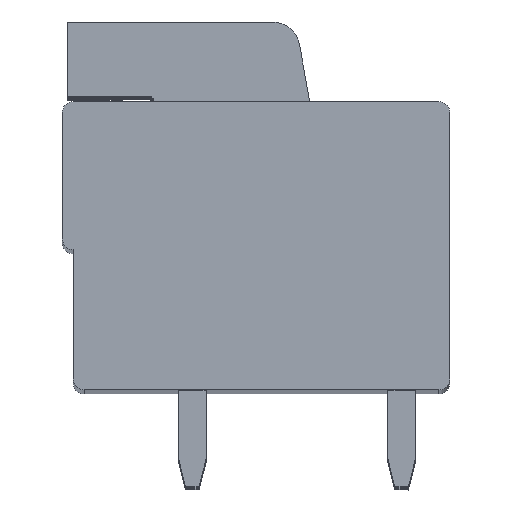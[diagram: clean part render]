
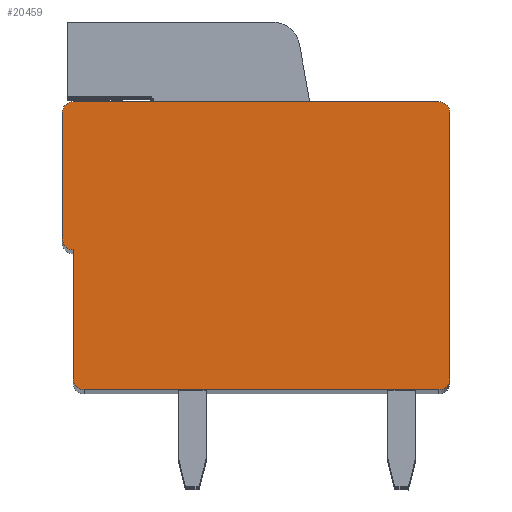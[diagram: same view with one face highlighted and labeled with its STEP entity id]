
A CAD part, top view. The second image highlights one B-rep face of the part: STEP entity #20459.
In plain terms, the highlighted planar face has unit normal (0, 0, 1).
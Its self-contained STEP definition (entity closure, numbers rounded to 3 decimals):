
#147=DIRECTION('',(-1.,0.,0.));
#148=VECTOR('',#147,13.304);
#149=CARTESIAN_POINT('',(13.702,14.,0.));
#150=LINE('',#149,#148);
#3346=DIRECTION('',(0.,-1.,0.));
#3347=VECTOR('',#3346,4.607);
#3348=CARTESIAN_POINT('',(0.002,13.603,0.));
#3349=LINE('',#3348,#3347);
#3696=DIRECTION('',(0.,-1.,0.));
#3697=VECTOR('',#3696,4.698);
#3698=CARTESIAN_POINT('',(0.4,8.6,0.));
#3699=LINE('',#3698,#3697);
#6561=CARTESIAN_POINT('',(13.702,13.6,0.));
#6562=DIRECTION('',(0.,0.,-1.));
#6563=DIRECTION('',(0.,1.,0.));
#6564=AXIS2_PLACEMENT_3D('',#6561,#6562,#6563);
#6566=DIRECTION('',(0.,-1.,0.));
#6567=VECTOR('',#6566,9.7);
#6568=CARTESIAN_POINT('',(14.102,13.6,0.));
#6569=LINE('',#6568,#6567);
#6570=CARTESIAN_POINT('',(13.702,3.9,0.));
#6571=DIRECTION('',(0.,0.,-1.));
#6572=DIRECTION('',(1.,0.,0.));
#6573=AXIS2_PLACEMENT_3D('',#6570,#6571,#6572);
#6575=DIRECTION('',(-1.,0.,0.));
#6576=VECTOR('',#6575,12.902);
#6577=CARTESIAN_POINT('',(13.702,3.5,0.));
#6578=LINE('',#6577,#6576);
#6579=CARTESIAN_POINT('',(0.8,3.9,0.));
#6580=DIRECTION('',(0.,0.,-1.));
#6581=DIRECTION('',(0.001,-1.,0.));
#6582=AXIS2_PLACEMENT_3D('',#6579,#6580,#6581);
#6584=CARTESIAN_POINT('',(0.4,9.,0.));
#6585=DIRECTION('',(0.,0.,-1.));
#6586=DIRECTION('',(-0.001,-1.,0.));
#6587=AXIS2_PLACEMENT_3D('',#6584,#6585,#6586);
#6589=CARTESIAN_POINT('',(0.398,13.604,0.));
#6590=DIRECTION('',(0.,0.,-1.));
#6591=DIRECTION('',(-1.,-0.003,0.));
#6592=AXIS2_PLACEMENT_3D('',#6589,#6590,#6591);
#8570=CARTESIAN_POINT('',(0.8,3.5,0.));
#8572=VERTEX_POINT('',#8570);
#8574=CARTESIAN_POINT('',(13.702,14.,0.));
#8575=CARTESIAN_POINT('',(14.102,13.6,0.));
#8576=VERTEX_POINT('',#8574);
#8577=VERTEX_POINT('',#8575);
#8578=CARTESIAN_POINT('',(14.102,3.9,0.));
#8579=VERTEX_POINT('',#8578);
#8580=CARTESIAN_POINT('',(13.702,3.5,0.));
#8581=VERTEX_POINT('',#8580);
#8582=CARTESIAN_POINT('',(0.4,3.902,0.));
#8583=VERTEX_POINT('',#8582);
#8584=CARTESIAN_POINT('',(0.4,8.6,0.));
#8585=VERTEX_POINT('',#8584);
#8586=CARTESIAN_POINT('',(0.,8.996,0.));
#8587=VERTEX_POINT('',#8586);
#8588=CARTESIAN_POINT('',(0.002,13.603,0.));
#8589=VERTEX_POINT('',#8588);
#8590=CARTESIAN_POINT('',(0.398,14.,0.));
#8591=VERTEX_POINT('',#8590);
#20442=CARTESIAN_POINT('',(7.051,8.75,0.));
#20443=DIRECTION('',(0.,0.,1.));
#20444=DIRECTION('',(1.,0.,0.));
#20445=AXIS2_PLACEMENT_3D('',#20442,#20443,#20444);
#20446=PLANE('',#20445);
#20447=ORIENTED_EDGE('',*,*,#20405,.T.);
#20448=ORIENTED_EDGE('',*,*,#20347,.T.);
#20449=ORIENTED_EDGE('',*,*,#20287,.T.);
#20450=ORIENTED_EDGE('',*,*,#16643,.T.);
#20451=ORIENTED_EDGE('',*,*,#16488,.T.);
#20452=ORIENTED_EDGE('',*,*,#16424,.F.);
#20453=ORIENTED_EDGE('',*,*,#16404,.T.);
#20454=ORIENTED_EDGE('',*,*,#16016,.F.);
#20455=ORIENTED_EDGE('',*,*,#15953,.T.);
#20456=ORIENTED_EDGE('',*,*,#11418,.F.);
#20457=EDGE_LOOP('',(#20447,#20448,#20449,#20450,#20451,#20452,#20453,#20454,
#20455,#20456));
#20458=FACE_OUTER_BOUND('',#20457,.F.);
#6565=CIRCLE('',#6564,0.4);
#6574=CIRCLE('',#6573,0.4);
#6583=CIRCLE('',#6582,0.4);
#6588=CIRCLE('',#6587,0.4);
#6593=CIRCLE('',#6592,0.396);
#11418=EDGE_CURVE('',#8576,#8591,#150,.T.);
#15953=EDGE_CURVE('',#8589,#8591,#6593,.T.);
#16016=EDGE_CURVE('',#8589,#8587,#3349,.T.);
#16404=EDGE_CURVE('',#8585,#8587,#6588,.T.);
#16424=EDGE_CURVE('',#8585,#8583,#3699,.T.);
#16488=EDGE_CURVE('',#8572,#8583,#6583,.T.);
#16643=EDGE_CURVE('',#8581,#8572,#6578,.T.);
#20287=EDGE_CURVE('',#8579,#8581,#6574,.T.);
#20347=EDGE_CURVE('',#8577,#8579,#6569,.T.);
#20405=EDGE_CURVE('',#8576,#8577,#6565,.T.);
#20459=ADVANCED_FACE('',(#20458),#20446,.T.);
